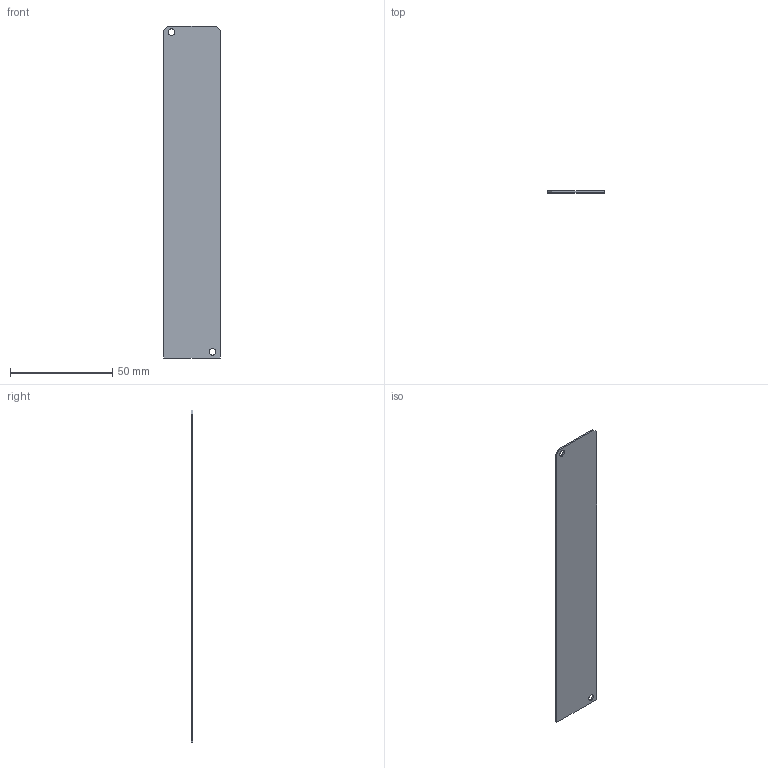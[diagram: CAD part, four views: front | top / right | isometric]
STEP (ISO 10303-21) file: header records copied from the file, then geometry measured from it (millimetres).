
FILE_DESCRIPTION (( 'STEP AP214' ), '1' );
FILE_NAME ('MLBX2-00-150-2-POLARIZER-H.STEP', '2021-11-05T07:26:47', ( '' ), ( '' ), 'SwSTEP 2.0', 'SolidWorks 2021', '' );
FILE_SCHEMA (( 'AUTOMOTIVE_DESIGN' ));
Length unit declared in the file: millimetre
Products named in the file (1): MLBX2-00-150-2-POLARIZER-H
Bounding box: 27.5 x 0.8 x 162 mm (x, y, z)
Volume: 3547.9 mm3; surface area: 9187.2 mm2
Topology: 1 solids, 1 shells, 12 faces, 30 edges, 20 vertices
Faces by surface type: plane 8, cylinder 4
Entity records: 470 total; most frequent: DIRECTION 64, CARTESIAN_POINT 63, ORIENTED_EDGE 60, EDGE_CURVE 30, VECTOR 22, LINE 22, AXIS2_PLACEMENT_3D 21, VERTEX_POINT 20
